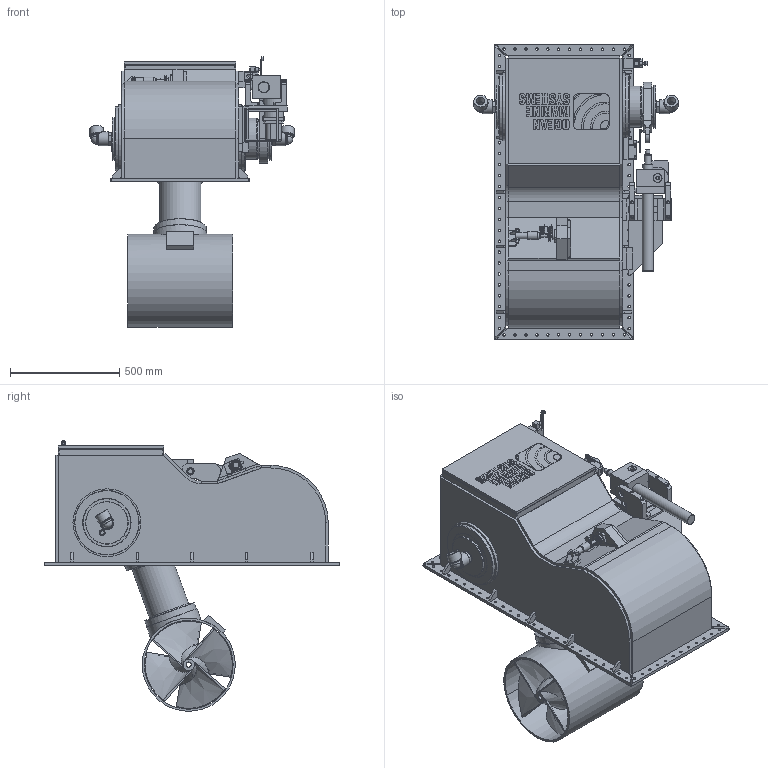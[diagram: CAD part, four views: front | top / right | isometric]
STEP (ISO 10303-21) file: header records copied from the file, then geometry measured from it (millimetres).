
FILE_DESCRIPTION(/* description */ (''),/* implementation_level */ '2;1');
FILE_NAME(/* name */ 'Q:\THRUSTERS\THRUSTER SALES & SUPPORT DOCS\THRUSTER Sales\H-S\H-0400-S\H-0400-S Deployed.stp',/* time_stamp */ '2021-01-26T11:51:11+00:00',/* author */ ('Barney.Webborn'),/* organization */ (''),/* preprocessor_version */ 'ST-DEVELOPER v17.2',/* originating_system */ 'Autodesk Inventor 2019',/* authorisation */ '');
FILE_SCHEMA (('AUTOMOTIVE_DESIGN { 1 0 10303 214 3 1 1 }'));
Length unit declared in the file: millimetre
Products named in the file (1): H-0400-S_Shrinkwrap_1
Bounding box: 936 x 1347 x 1237.73 mm (x, y, z)
Volume: 74702295.7 mm3; surface area: 10968873.5 mm2
Topology: 15 solids, 18 shells, 1890 faces, 5034 edges, 3279 vertices
Faces by surface type: plane 1088, cylinder 435, cone 139, bspline 138, torus 66, sphere 24
Full cylindrical faces by diameter (mm): 3 x6, 7.2 x2, 8 x2, 8.38 x2, 10 x2, 11 x76, 11.8 x1, 11.999 x3, 12 x2, 14.95 x2, 15 x3, 15.6 x1, 16 x2, 16.467 x1, 17 x3, 17.5 x2, 18.376 x2, 18.75 x2, 19 x2, 20 x3, 21.65 x1, 23.53 x1, 23.55 x1, 24.25 x1, 25 x2, 25.4 x2, 26 x1, 26.25 x1, 26.7 x1, 28 x1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
Entity records: 66189 total; most frequent: CARTESIAN_POINT 16789, ORIENTED_EDGE 9974, DIRECTION 9454, EDGE_CURVE 4993, VERTEX_POINT 3279, AXIS2_PLACEMENT_3D 3188, LINE 3078, VECTOR 3078
